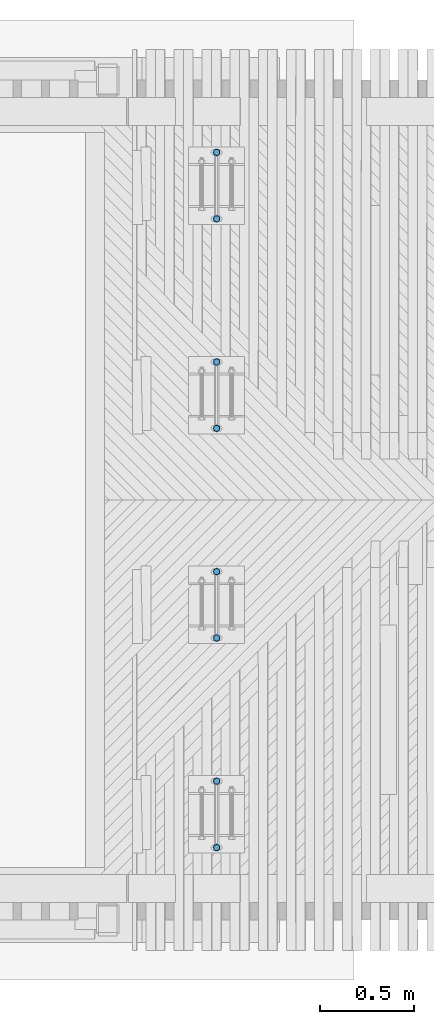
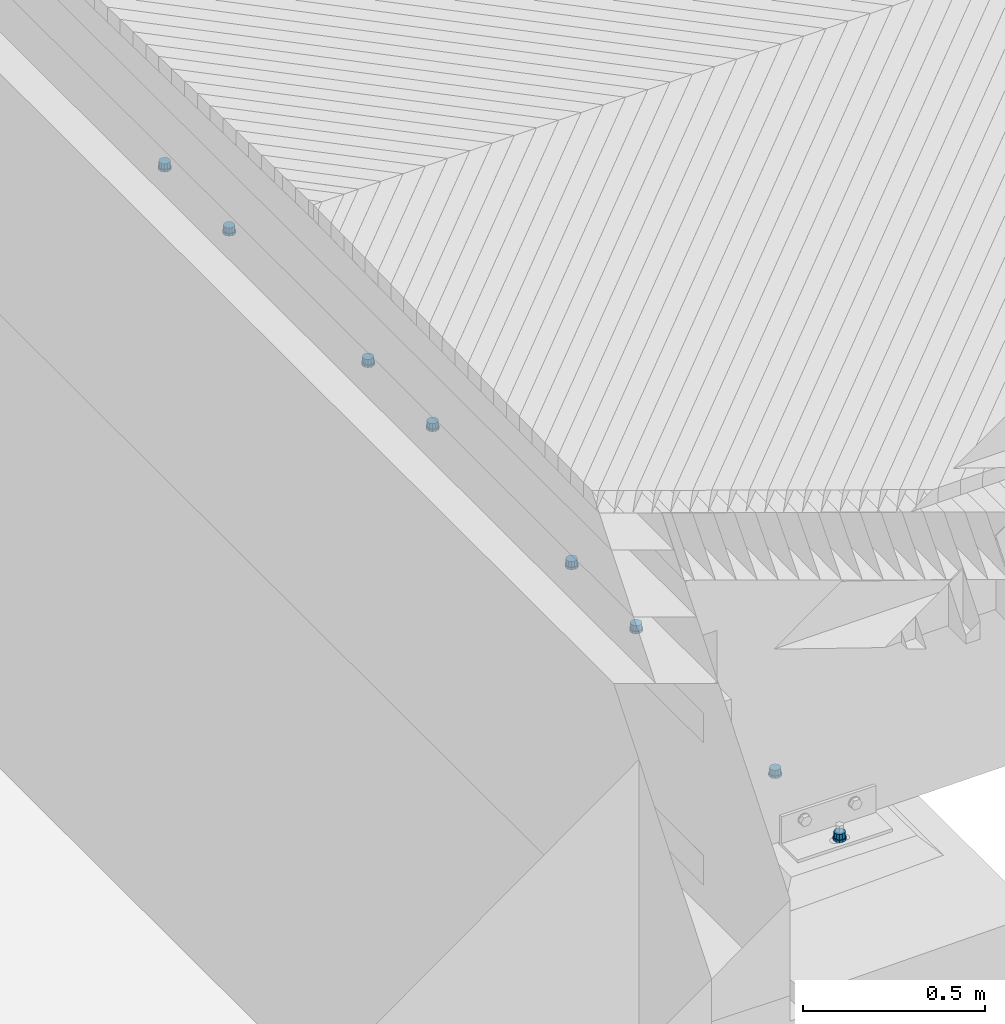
# One storey, part 11 of 47: 16 columns.
"""IFC2X3 building model written with IfcOpenShell, lengths in millimetres."""

from ifc_helpers import new_model, si_unit, frame, origin_with_axes, place, context, subcontext, project, spatial, faceted_brep, material, type_object, element, save


model = new_model("IFC2X3")

# Units and contexts
model_context = context("Model", 3, precision=1e-05, world=origin_with_axes())
body_context = subcontext(model_context, "Body", "Model", "MODEL_VIEW")
ifc_project = project(units=[si_unit("LENGTHUNIT", "METRE", prefix="MILLI"), si_unit("AREAUNIT", "SQUARE_METRE"), si_unit("VOLUMEUNIT", "CUBIC_METRE"), si_unit("MASSUNIT", "GRAM", prefix="KILO"), si_unit("TIMEUNIT", "SECOND"), si_unit("PLANEANGLEUNIT", "RADIAN"), si_unit("SOLIDANGLEUNIT", "STERADIAN"), si_unit("THERMODYNAMICTEMPERATUREUNIT", "DEGREE_CELSIUS"), si_unit("LUMINOUSINTENSITYUNIT", "LUMEN")], contexts=[model_context])

# Site, building, storey
site_placement = place(None, origin_with_axes())
site = spatial("IfcSite", under=ifc_project, at=site_placement, Name="Undefined", CompositionType="ELEMENT")
building_placement = place(site_placement, origin_with_axes())
building = spatial("IfcBuilding", under=site, at=building_placement, Name="Undefined", CompositionType="ELEMENT")
storey_placement = place(building_placement, origin_with_axes())
storey = spatial("IfcBuildingStorey", under=building, at=storey_placement, Name="Undefined", CompositionType="ELEMENT", Elevation=0.0)

# Columns
ifc_material = material(Name="STEEL/Steel_Undefined")
column_type_1 = type_object("IfcColumnType", Name="D38", PredefinedType="NOTDEFINED")
for number, where, z_axis, x_axis, name in (
    (1, (0.0, 62747.5000000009, 2007.32999999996), (0.0, 1.0, 0.0), (0.0, 0.0, 1.0), "BEAM"),
    (2, (0.0, 63102.5000000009, 2007.32999999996), (0.0, 1.0, 0.0), (0.0, 0.0, 1.0), "BEAM"),
    (3, (0.0, 63867.5000000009, 1985.32999999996), (0.0, 1.0, 0.0), (0.0, 0.0, 1.0), "BEAM"),
    (4, (0.0, 64222.5000000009, 1985.32999999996), (0.0, 1.0, 0.0), (0.0, 0.0, 1.0), "BEAM"),
    (5, (0.0, 61982.5, 2007.32999999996), (0.0, -1.0, 0.0), (0.0, 0.0, 1.0), "BEAM"),
    (6, (0.0, 61627.5, 2007.32999999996), (0.0, -1.0, 0.0), (0.0, 0.0, 1.0), "BEAM"),
    (7, (0.0, 60862.5, 1985.32999999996), (0.0, -1.0, 0.0), (0.0, 0.0, 1.0), "BEAM"),
    (8, (0.0, 60507.5, 1985.32999999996), (0.0, -1.0, 0.0), (0.0, 0.0, 1.0), "BEAM"),
):
    element("IfcColumn", number, at=place(storey_placement, frame(where, z_axis=z_axis, x_axis=x_axis)), inside=storey, type_object=column_type_1, material=ifc_material, Name=name, ObjectType="D38", context=body_context, shape_type="Brep", body=[
        faceted_brep([(0.0, -19.0, 0.0), (0.0, -16.4544826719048, -9.5), (8.0, -16.4544826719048, -9.5), (8.0, -19.0, 0.0), (0.0, -9.5, -16.4544826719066), (8.0, -9.5, -16.4544826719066), (0.0, 0.0, -19.0), (8.0, 0.0, -19.0), (0.0, 9.5, -16.4544826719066), (8.0, 9.5, -16.4544826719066), (0.0, 16.4544826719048, -9.5), (8.0, 16.4544826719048, -9.5), (0.0, 19.0, 0.0), (8.0, 19.0, 0.0), (0.0, 16.4544826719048, 9.5), (8.0, 16.4544826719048, 9.5), (0.0, 9.5, 16.4544826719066), (8.0, 9.5, 16.4544826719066), (0.0, 0.0, 19.0), (8.0, 0.0, 19.0), (0.0, -9.5, 16.4544826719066), (8.0, -9.5, 16.4544826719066), (0.0, -16.4544826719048, 9.5), (8.0, -16.4544826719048, 9.5)], [[[0, 1, 2, 3]], [[1, 4, 5, 2]], [[4, 6, 7, 5]], [[6, 8, 9, 7]], [[8, 10, 11, 9]], [[10, 12, 13, 11]], [[12, 14, 15, 13]], [[14, 16, 17, 15]], [[16, 18, 19, 17]], [[18, 20, 21, 19]], [[20, 22, 23, 21]], [[22, 0, 3, 23]], [[5, 7, 9, 11, 13, 15, 17, 19, 21, 23, 3, 2]], [[22, 20, 18, 16, 14, 12, 10, 8, 6, 4, 1, 0]]]),
    ])
column_type_2 = type_object("IfcColumnType", Name="D33", PredefinedType="NOTDEFINED")
for number, where, z_axis, x_axis, name in (
    (9, (0.0, 62747.5000000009, 2015.32999999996), (0.0, 1.0, 0.0), (0.0, 0.0, 1.0), "BEAM"),
    (10, (0.0, 63102.5000000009, 2015.32999999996), (0.0, 1.0, 0.0), (0.0, 0.0, 1.0), "BEAM"),
    (11, (0.0, 63867.5000000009, 1993.32999999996), (0.0, 1.0, 0.0), (0.0, 0.0, 1.0), "BEAM"),
    (12, (0.0, 64222.5000000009, 1993.32999999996), (0.0, 1.0, 0.0), (0.0, 0.0, 1.0), "BEAM"),
    (13, (0.0, 61982.5, 2015.32999999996), (0.0, -1.0, 0.0), (0.0, 0.0, 1.0), "BEAM"),
    (14, (0.0, 61627.5, 2015.32999999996), (0.0, -1.0, 0.0), (0.0, 0.0, 1.0), "BEAM"),
    (15, (0.0, 60862.5, 1993.32999999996), (0.0, -1.0, 0.0), (0.0, 0.0, 1.0), "BEAM"),
    (16, (0.0, 60507.5, 1993.32999999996), (0.0, -1.0, 0.0), (0.0, 0.0, 1.0), "BEAM"),
):
    element("IfcColumn", number, at=place(storey_placement, frame(where, z_axis=z_axis, x_axis=x_axis)), inside=storey, type_object=column_type_2, material=ifc_material, Name=name, ObjectType="D33", context=body_context, shape_type="Brep", body=[
        faceted_brep([(0.0, -16.5, 0.0), (0.0, -14.2894191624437, -8.25), (18.0, -14.2894191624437, -8.25), (18.0, -16.5, 0.0), (0.0, -8.25, -14.2894191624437), (18.0, -8.25, -14.2894191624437), (0.0, 0.0, -16.5), (18.0, 0.0, -16.5), (0.0, 8.25, -14.2894191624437), (18.0, 8.25, -14.2894191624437), (0.0, 14.2894191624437, -8.25), (18.0, 14.2894191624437, -8.25), (0.0, 16.5, 0.0), (18.0, 16.5, 0.0), (0.0, 14.2894191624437, 8.25), (18.0, 14.2894191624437, 8.25), (0.0, 8.25, 14.2894191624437), (18.0, 8.25, 14.2894191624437), (0.0, 0.0, 16.5), (18.0, 0.0, 16.5), (0.0, -8.25, 14.2894191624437), (18.0, -8.25, 14.2894191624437), (0.0, -14.2894191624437, 8.25), (18.0, -14.2894191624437, 8.25)], [[[0, 1, 2, 3]], [[1, 4, 5, 2]], [[4, 6, 7, 5]], [[6, 8, 9, 7]], [[8, 10, 11, 9]], [[10, 12, 13, 11]], [[12, 14, 15, 13]], [[14, 16, 17, 15]], [[16, 18, 19, 17]], [[18, 20, 21, 19]], [[20, 22, 23, 21]], [[22, 0, 3, 23]], [[5, 7, 9, 11, 13, 15, 17, 19, 21, 23, 3, 2]], [[22, 20, 18, 16, 14, 12, 10, 8, 6, 4, 1, 0]]]),
    ])

save(model, "model.ifc")
